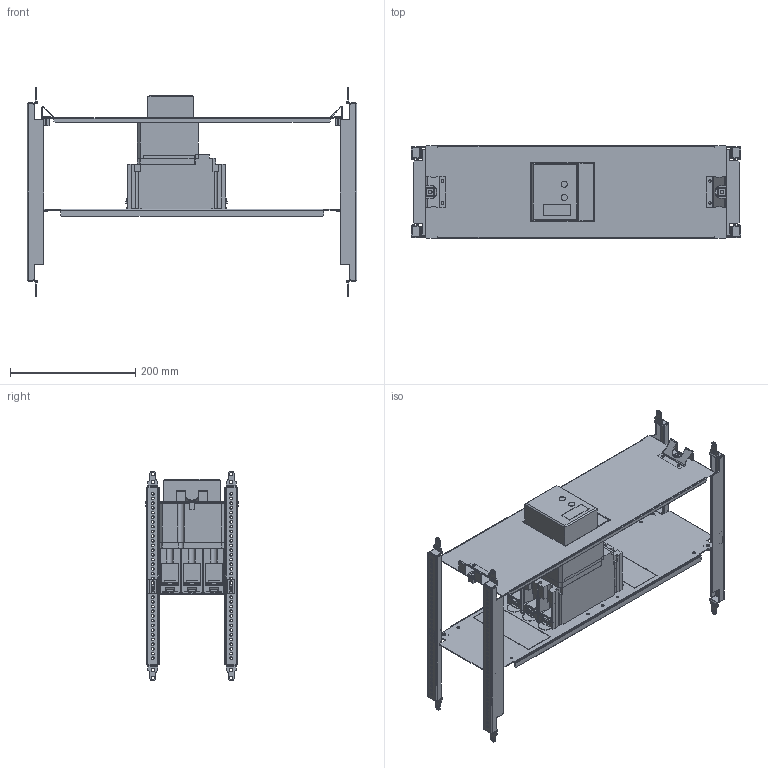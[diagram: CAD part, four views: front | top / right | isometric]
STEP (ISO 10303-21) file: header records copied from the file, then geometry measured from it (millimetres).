
FILE_DESCRIPTION(('CAx-IF Rec.Pracs.---Model Styling and Organization---1.2---2011-12-15','CAx-IF Rec.Pracs.---Geometric and Assembly Validation Properties---4.1---2014-06-16','CAx-IF Rec.Pracs.---PMI Polyline Presentation---2.0---2013-05-24'),'2;1');
FILE_NAME('R5PKIB7H62213 (F-MO).stp','2021-07-29T03:07:01+03:00',(''),(''),'STEP Interface 4.4 by CT CoreTechnologie','3D_Evolution4.4 by CT CoreTechnologie','');
FILE_SCHEMA(('AUTOMOTIVE_DESIGN { 1 0 10303 214 1 1 1 1 }'));
Length unit declared in the file: millimetre
Products named in the file (1): R5PKIB7H62213 (F-MO)
Bounding box: 526 x 148 x 335 mm (x, y, z)
Surface area: 654091.8 mm2 (no closed solid volume)
Topology: 0 solids, 49 shells, 1879 faces, 5530 edges, 3761 vertices
Faces by surface type: plane 1179, cylinder 633, bspline 67
Entity records: 64279 total; most frequent: CARTESIAN_POINT 12143, ORIENTED_EDGE 11040, DIRECTION 10474, EDGE_CURVE 5520, VECTOR 4156, LINE 4156, VERTEX_POINT 3778, AXIS2_PLACEMENT_3D 3159
